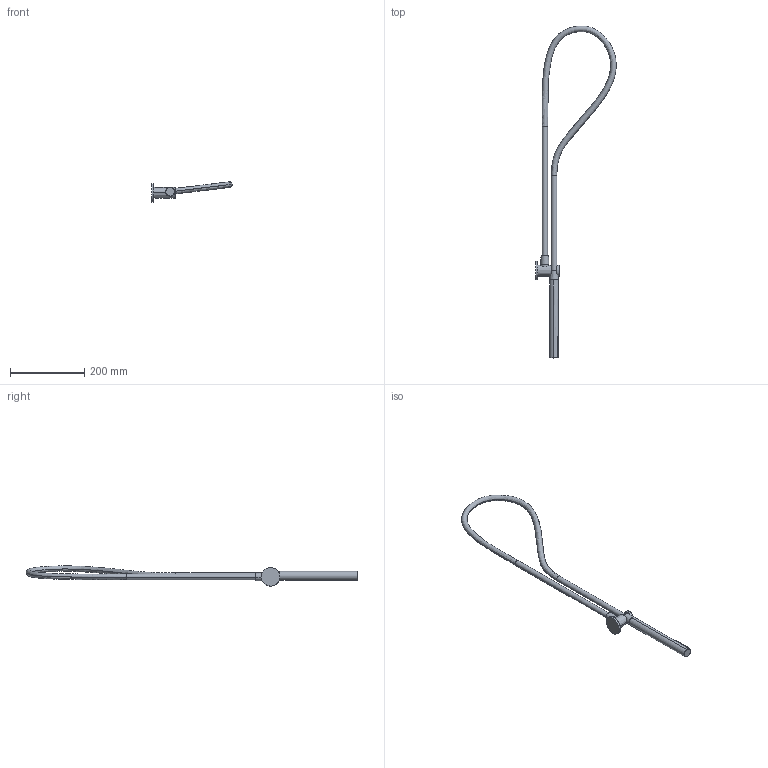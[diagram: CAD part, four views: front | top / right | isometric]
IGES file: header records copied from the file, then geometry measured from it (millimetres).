
Start section:  PTC IGES file: 45400.igs
Global section: file name: 45400.igs; native system: Creo Parametric by PTC Inc.; preprocessor: 2018100; author: carloff; organization: Unknown; date: 20200716.160202; units: millimetre
Bounding box: 216.31 x 893.33 x 54.48 mm (x, y, z)
Surface area: 99022.2 mm2 (no closed solid volume)
Topology: 0 solids, 0 shells, 194 faces, 798 edges, 798 vertices
Faces by surface type: revolution 132, bspline 62
